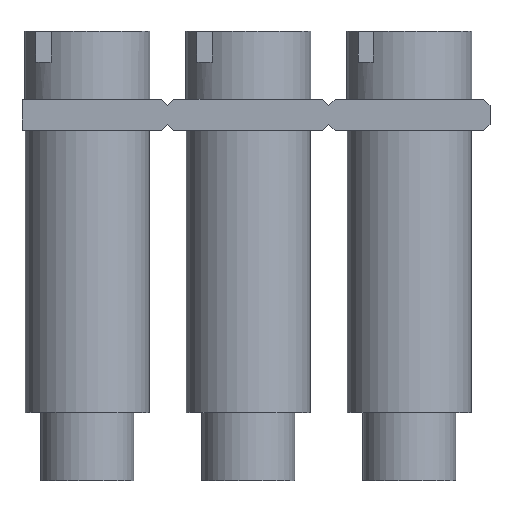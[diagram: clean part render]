
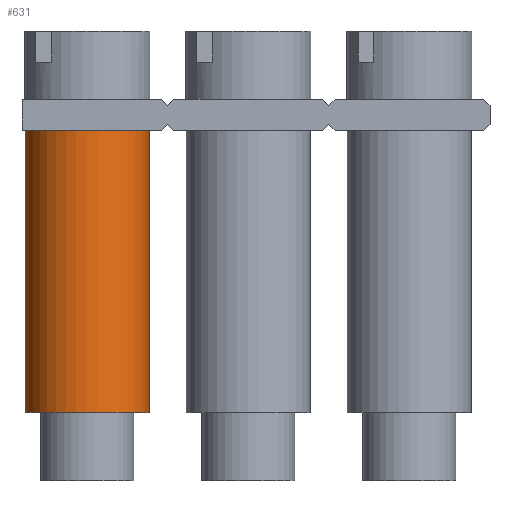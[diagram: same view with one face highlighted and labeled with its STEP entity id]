
A CAD part, top view. The second image highlights one B-rep face of the part: STEP entity #631.
In plain terms, the highlighted cylindrical face has radius 2 mm (diameter 4 mm), a partial arc.
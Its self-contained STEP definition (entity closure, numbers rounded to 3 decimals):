
#579=CARTESIAN_POINT('',(-2.,0.,0.));
#580=VERTEX_POINT('',#579);
#581=CARTESIAN_POINT('',(2.,0.,0.));
#582=VERTEX_POINT('',#581);
#583=CARTESIAN_POINT('',(0.,0.,0.));
#584=DIRECTION('',(-1.,0.,0.));
#585=DIRECTION('',(0.,1.,0.));
#586=AXIS2_PLACEMENT_3D('',#583,#585,#584);
#587=CIRCLE('',#586,2.);
#588=EDGE_CURVE('',#580,#582,#587,.T.);
#600=CARTESIAN_POINT('',(0.,0.,0.));
#601=DIRECTION('',(-1.,0.,0.));
#602=DIRECTION('',(0.,-1.,0.));
#603=AXIS2_PLACEMENT_3D('',#600,#602,#601);
#604=CYLINDRICAL_SURFACE('',#603,2.);
#605=CARTESIAN_POINT('',(-2.,-9.1,0.));
#606=VERTEX_POINT('',#605);
#607=CARTESIAN_POINT('',(2.,-9.1,0.));
#608=VERTEX_POINT('',#607);
#609=CARTESIAN_POINT('',(0.,-9.1,0.));
#610=DIRECTION('',(-1.,0.,0.));
#611=DIRECTION('',(0.,1.,0.));
#612=AXIS2_PLACEMENT_3D('',#609,#611,#610);
#613=CIRCLE('',#612,2.);
#614=EDGE_CURVE('',#606,#608,#613,.T.);
#615=ORIENTED_EDGE('E157',*,*,#614,.T.);
#616=CARTESIAN_POINT('',(2.,-9.1,0.));
#617=DIRECTION('',(0.,1.,0.));
#618=VECTOR('',#617,9.1);
#619=LINE('',#616,#618);
#620=EDGE_CURVE('',#608,#582,#619,.T.);
#621=ORIENTED_EDGE('E158',*,*,#620,.T.);
#622=ORIENTED_EDGE('E158',*,*,#588,.F.);
#623=CARTESIAN_POINT('',(-2.,0.,0.));
#624=DIRECTION('',(0.,-1.,0.));
#625=VECTOR('',#624,9.1);
#626=LINE('',#623,#625);
#627=EDGE_CURVE('',#580,#606,#626,.T.);
#628=ORIENTED_EDGE('E159',*,*,#627,.T.);
#629=EDGE_LOOP('',(#615,#621,#622,#628));
#630=FACE_OUTER_BOUND('',#629,.T.);
#631=ADVANCED_FACE('F19',(#630),#604,.T.);
